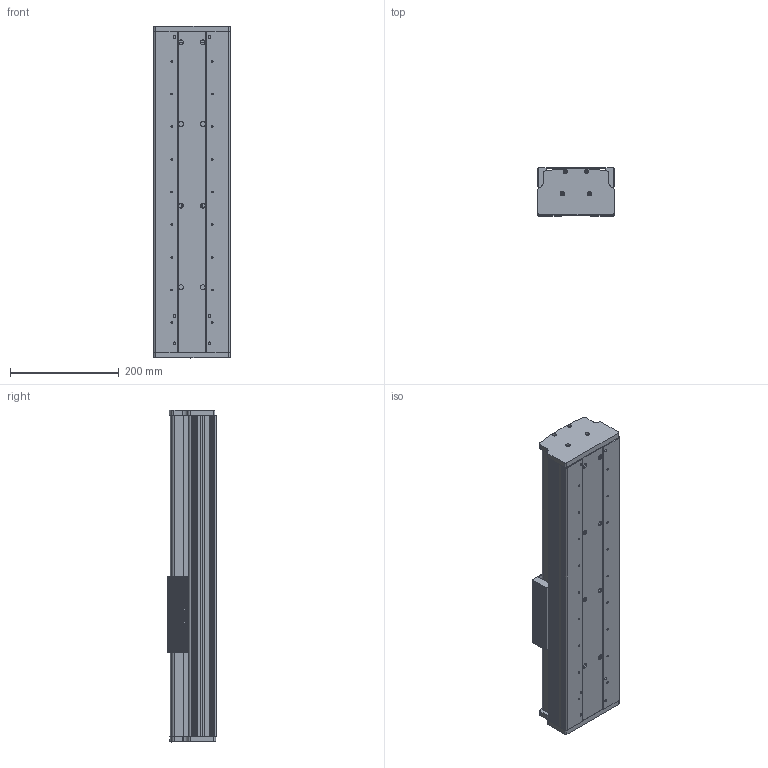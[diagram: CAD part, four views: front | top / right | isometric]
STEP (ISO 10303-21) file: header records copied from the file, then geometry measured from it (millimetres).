
FILE_DESCRIPTION (( 'STEP AP203' ), '1' );
FILE_NAME ('CF140B-C-300-FW.STEP', '2020-06-13T01:34:32', ( 'Micorosoft' ), ( 'Micorosoft' ), 'SwSTEP 2.0', 'SolidWorks 2016', '' );
FILE_SCHEMA (( 'CONFIG_CONTROL_DESIGN' ));
Length unit declared in the file: millimetre
Products named in the file (10): 140B珨极嘐隅釱; CF140B-C-300-FW; 15絳寢; CF140蹟譫釱; CF140賑雄啣; 菁釱; CF140盓傅釱; 15賑輸; CF140裔啣; CF140萇儂啣
Assembly tree (13 placements, depth 2):
  CF140B-C-300-FW
    菁釱
    15賑輸  x4
    15絳寢  x2
    CF140蹟譫釱
    CF140賑雄啣
    CF140盓傅釱
    CF140裔啣
    CF140萇儂啣
    140B珨极嘐隅釱
Bounding box: 140.05 x 89.5 x 610 mm (x, y, z)
Volume: 3179697.4 mm3; surface area: 1080098 mm2
Topology: 13 solids, 13 shells, 1275 faces, 3522 edges, 2286 vertices
Faces by surface type: cylinder 545, plane 537, bspline 121, cone 72
Entity records: 45816 total; most frequent: CARTESIAN_POINT 14846, ORIENTED_EDGE 6356, DIRECTION 5980, EDGE_CURVE 3178, VERTEX_POINT 2106, AXIS2_PLACEMENT_3D 2078, VECTOR 1824, LINE 1824
